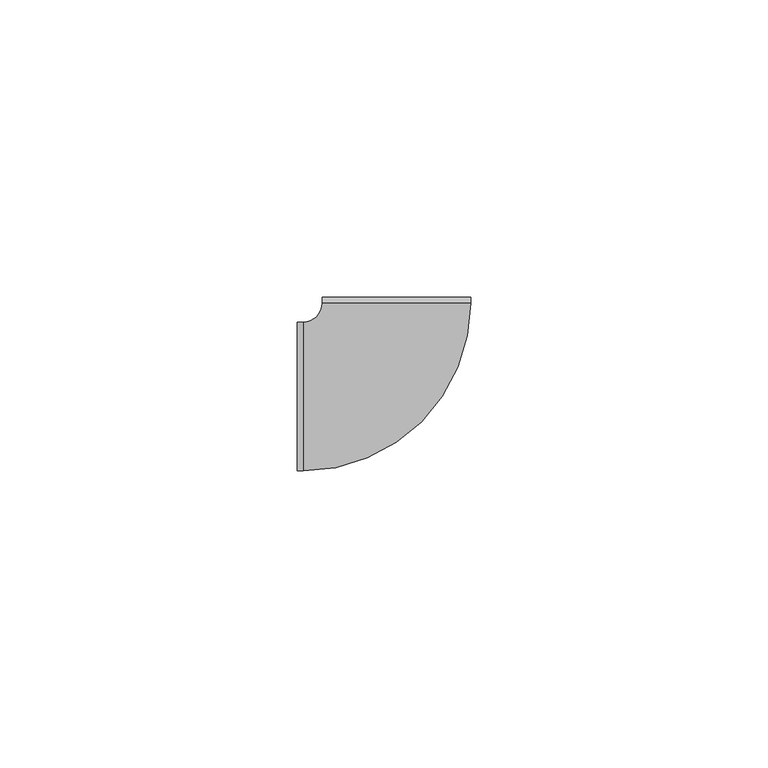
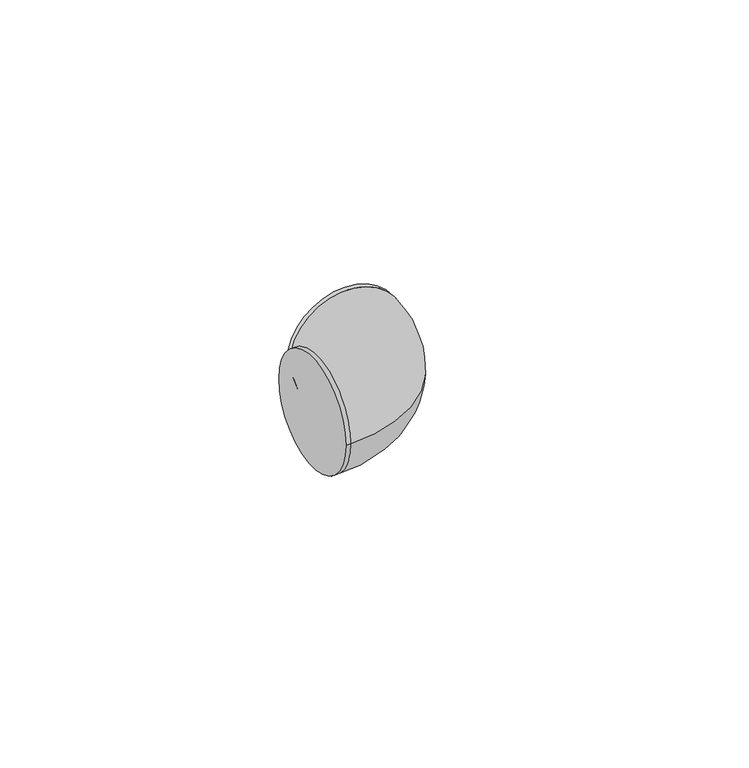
"""IFC4 building model written with IfcOpenShell, lengths in millimetres: cable carrier fitting geometry, ADSK_Поворот_Минимальный размер : Неспецифицируемый."""

from ifc_helpers import new_model, si_unit, point, frame, origin, place, context, project, spatial, circle_curve, ellipse_curve, trimmed, source, transform, mapped, element, save
from ifc_brep_helpers import plane_surface, cylinder_surface, revolved_surface, advanced_brep


def cable_carrier_fitting_fe952dc1(model_context):
    return source(origin(), model_context, "Body", "AdvancedBrep", [
        advanced_brep(
        [(-16.675, -12.5, 0.0), (-16.675, 12.5, 0.0), (-15.675, -12.5, 0.0), (-15.675, 12.5, 0.0), (-12.5, 15.675, 0.0), (12.5, 15.675, 0.0), (12.5, 16.675, 0.0), (-12.5, 16.675, 0.0)],
        [
            (0, 1, circle_curve(frame((-16.675, 0.0, 0.0), z_axis=(-1.0, -4.92260399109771e-12, 0.0), x_axis=(-4.92260399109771e-12, 1.0, 0.0)), 12.5)),
            (1, 0, circle_curve(frame((-16.675, 0.0, 0.0), z_axis=(-1.0, -4.92260399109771e-12, 0.0), x_axis=(-4.92260399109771e-12, 1.0, 0.0)), 12.5)),
            (0, 2),
            (2, 3, circle_curve(frame((-15.675, 0.0, 0.0), z_axis=(-1.0, -4.92260399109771e-12, 0.0), x_axis=(-4.92260399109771e-12, 1.0, 0.0)), 12.5)),
            (3, 1),
            (3, 2, circle_curve(frame((-15.675, 0.0, 0.0), z_axis=(-1.0, -4.92260399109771e-12, 0.0), x_axis=(-4.92260399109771e-12, 1.0, 0.0)), 12.5)),
            (4, 3, circle_curve(frame((-15.675, 15.675, 0.0), z_axis=(0.0, 0.0, -1.0), x_axis=(0.0, -1.0, 0.0)), 3.175)),
            (2, 5, circle_curve(frame((-15.675, 15.675, 0.0), z_axis=(0.0, 0.0, 1.0), x_axis=(0.0, -1.0, 0.0)), 28.175)),
            (5, 4, circle_curve(frame((0.0, 15.675, 0.0), z_axis=(0.0, -1.0, 0.0), x_axis=(-1.0, 0.0, 0.0)), 12.5)),
            (4, 5, circle_curve(frame((0.0, 15.675, 0.0), z_axis=(0.0, -1.0, 0.0), x_axis=(-1.0, 0.0, 0.0)), 12.5)),
            (6, 7, circle_curve(frame((0.0, 16.675, 0.0), z_axis=(0.0, 1.0, 0.0), x_axis=(-1.0, 0.0, 0.0)), 12.5)),
            (7, 6, circle_curve(frame((0.0, 16.675, 0.0), z_axis=(0.0, 1.0, 0.0), x_axis=(-1.0, 0.0, 0.0)), 12.5)),
            (5, 6),
            (7, 4),
        ],
        [
            plane_surface(frame((-16.675, 0.0, 0.0), z_axis=(-1.0, -4.92260399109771e-12, 0.0), x_axis=(0.0, 0.0, 1.0))),
            cylinder_surface(frame((-16.675, 0.0, 0.0), z_axis=(-1.0, -4.92260399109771e-12, 0.0), x_axis=(-4.92260399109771e-12, 1.0, 0.0)), 12.5),
            revolved_surface(trimmed(ellipse_curve(frame((-15.675, 0.0, 0.0), z_axis=(-1.0, 0.0, 0.0), x_axis=(0.0, 1.0, 0.0)), 12.5, 12.5), [point((-15.675, -12.5, 0.0))], [point((-15.675, 12.5, 0.0))], True, "CARTESIAN"), (-15.675, 15.675, 0.0), (0.0, 0.0, 1.0)),
            revolved_surface(trimmed(ellipse_curve(frame((-15.675, 0.0, 0.0), z_axis=(-1.0, 0.0, 0.0), x_axis=(0.0, 1.0, 0.0)), 12.5, 12.5), [point((-15.675, 12.5, 0.0))], [point((-15.675, -12.5, 0.0))], True, "CARTESIAN"), (-15.675, 15.675, 0.0), (0.0, 0.0, 1.0)),
            plane_surface(frame((0.0, 16.675, 0.0), z_axis=(0.0, 1.0, 0.0), x_axis=(0.0, 0.0, 1.0))),
            cylinder_surface(frame((0.0, 15.675, 0.0), z_axis=(0.0, -1.0, 0.0), x_axis=(-1.0, 0.0, 0.0)), 12.5),
        ],
        [
            (0, [[1, 2]]),
            (1, [[-1, 3, 4, 5]]),
            (1, [[-2, -5, 6, -3]]),
            (2, [[7, -4, 8, 9]]),
            (3, [[-8, -6, -7, 10]]),
            (4, [[11, 12]]),
            (5, [[-9, 13, -12, 14]]),
            (5, [[-10, -14, -11, -13]]),
        ],
    ),
    ])


if __name__ == "__main__":
    model = new_model("IFC4")
    model_context = context("Model", 3, world=origin())
    ifc_project = project(units=[si_unit("LENGTHUNIT", "METRE", prefix="MILLI")], contexts=[model_context])
    site = spatial("IfcSite", under=ifc_project)
    building = spatial("IfcBuilding", under=site)
    placement = place(None, origin())
    cable_carrier_fitting_shape = cable_carrier_fitting_fe952dc1(model_context)
    element("IfcCableCarrierFitting", 1, ObjectType="ADSK_Поворот_Минимальный размер : Неспецифицируемый", at=placement, inside=building, context=model_context, shape_type="MappedRepresentation", body=[
        mapped(cable_carrier_fitting_shape, transform((0.0, 0.0, 0.0), x_axis=(1.0, 0.0, 0.0), y_axis=(0.0, 1.0, 0.0), z_axis=(0.0, 0.0, 1.0))),
    ])
    save(model, "model.ifc")
